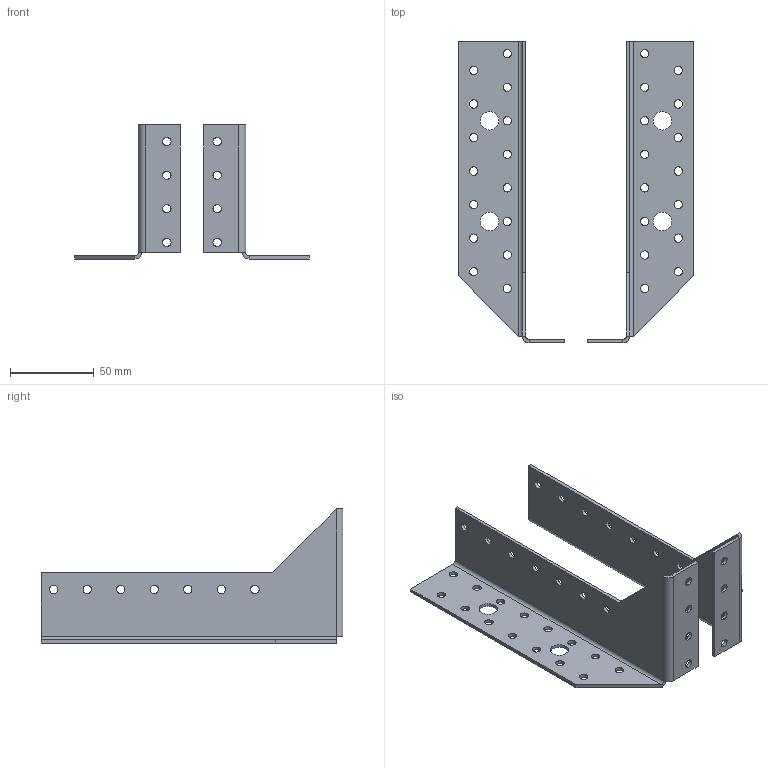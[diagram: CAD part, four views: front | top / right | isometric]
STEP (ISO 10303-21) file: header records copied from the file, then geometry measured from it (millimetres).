
FILE_DESCRIPTION (( 'STEP AP203' ), '1' );
FILE_NAME ('182.STEP', '2021-04-18T12:36:48', ( '' ), ( '' ), 'SwSTEP 2.0', 'SolidWorks 2013', '' );
FILE_SCHEMA (( 'CONFIG_CONTROL_DESIGN' ));
Length unit declared in the file: millimetre
Products named in the file (1): 182
Bounding box: 140 x 180 x 80 mm (x, y, z)
Volume: 60723.8 mm3; surface area: 65007.9 mm2
Topology: 2 solids, 2 shells, 158 faces, 430 edges, 276 vertices
Faces by surface type: cylinder 120, plane 38
Entity records: 5377 total; most frequent: DIRECTION 988, CARTESIAN_POINT 865, ORIENTED_EDGE 860, EDGE_CURVE 430, AXIS2_PLACEMENT_3D 399, VERTEX_POINT 276, EDGE_LOOP 270, CIRCLE 240
